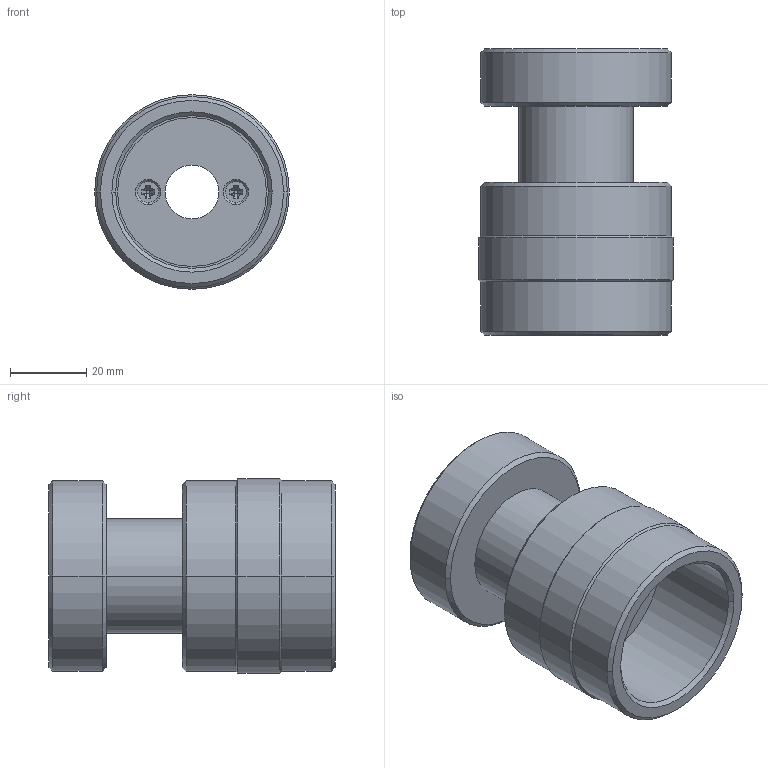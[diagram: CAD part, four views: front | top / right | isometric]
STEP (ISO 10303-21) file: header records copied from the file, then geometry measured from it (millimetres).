
FILE_DESCRIPTION (( 'STEP AP203' ), '1' );
FILE_NAME ('160822.step', '2014-08-11T17:00:26', ( 'User' ), ( '' ), 'SwSTEP 2.0', 'SolidWorks 2014', '' );
FILE_SCHEMA (( 'CONFIG_CONTROL_DESIGN' ));
Length unit declared in the file: millimetre
Products named in the file (6): 160822 Standfuß^160822_Detailliert; 160822 Schraubteil^160822 Schraubteil komplett_160822_Detailliert; 160822 Scheibe^160822 Schraubteil komplett_160822; M3x10 Senkschraube Kreuz DIN2009_Detailliert; 160822 Schraubteil komplett^160822_Detailliert; 160822
Assembly tree (6 placements, depth 3):
  160822
    160822 Standfuß^160822_Detailliert
    160822 Schraubteil komplett^160822_Detailliert
      160822 Schraubteil^160822 Schraubteil komplett_160822_Detailliert
      160822 Scheibe^160822 Schraubteil komplett_160822
      M3x10 Senkschraube Kreuz DIN2009_Detailliert  x2
Bounding box: 51 x 75 x 51 mm (x, y, z)
Volume: 79726.8 mm3; surface area: 27434.6 mm2
Topology: 5 solids, 5 shells, 127 faces, 296 edges, 186 vertices
Faces by surface type: cone 44, cylinder 38, bspline 24, plane 17, torus 4
Entity records: 3640 total; most frequent: CARTESIAN_POINT 721, DIRECTION 522, ORIENTED_EDGE 442, EDGE_CURVE 221, AXIS2_PLACEMENT_3D 218, VERTEX_POINT 137, CIRCLE 122, EDGE_LOOP 114
